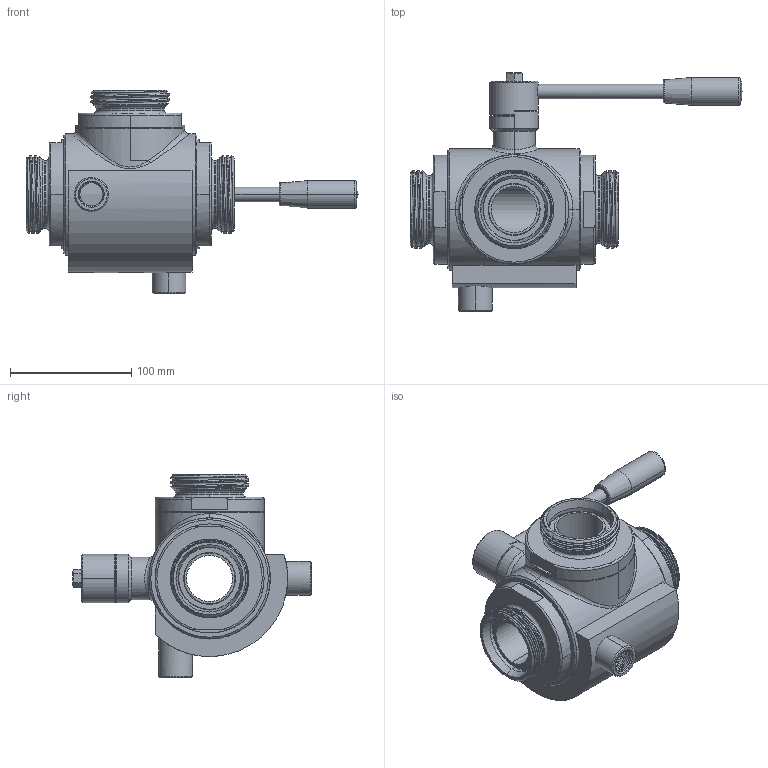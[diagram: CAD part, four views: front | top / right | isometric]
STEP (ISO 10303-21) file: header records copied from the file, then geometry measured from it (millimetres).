
FILE_DESCRIPTION((''),'2;1');
FILE_NAME('300125C63410','2023-12-22T09:00:02',('alfio.taboni'),('CDM Tecnoconsulting'),'CREO PARAMETRIC BY PTC INC, 2020053','CREO PARAMETRIC BY PTC INC, 2020053','');
FILE_SCHEMA(('CONFIG_CONTROL_DESIGN','SHAPE_APPEARANCE_LAYERS_GROUPS'));
Products named in the file (1): 300125C63410
Bounding box: 274 x 197 x 168 mm (x, y, z)
Volume: 1063179.1 mm3; surface area: 259144 mm2
Topology: 1 solids, 3 shells, 1269 faces, 3445 edges, 2204 vertices
Faces by surface type: plane 479, cylinder 304, extrusion 162, cone 135, bspline 125, torus 60, sphere 4
Entity records: 106308 total; most frequent: CARTESIAN_POINT 59582, ORIENTED_EDGE 6836, DIRECTION 5139, PRESENTATION_STYLE_ASSIGNMENT 4361, STYLED_ITEM 3581, CURVE_STYLE 3580, EDGE_CURVE 3418, VERTEX_POINT 2204
